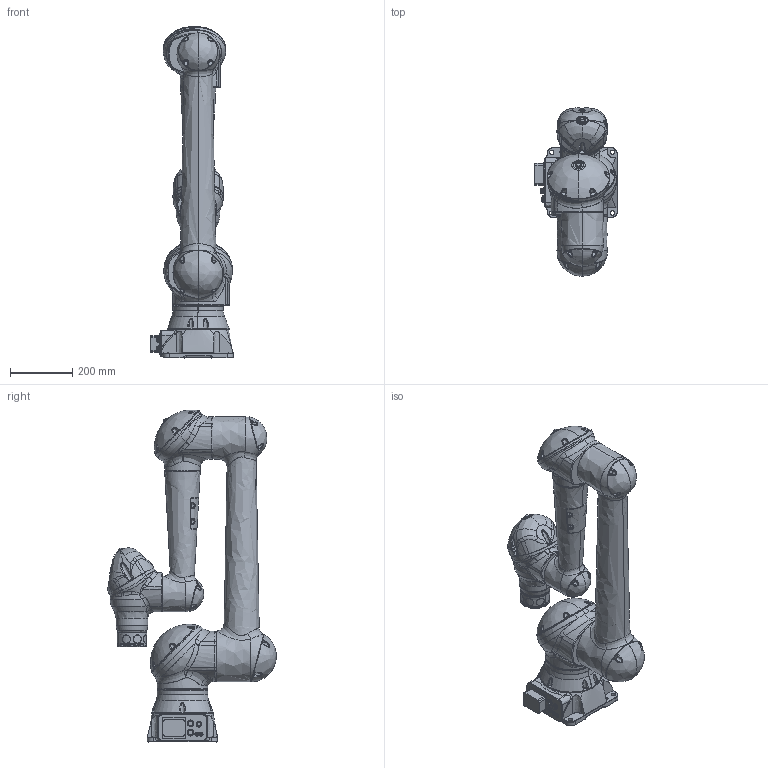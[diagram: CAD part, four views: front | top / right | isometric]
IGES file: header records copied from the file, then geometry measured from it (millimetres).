
Global section: file name: U:\MOTO\HC10DT\HD10DT.igs; native system: NX V12.0; preprocessor: SIEMENS PLM Software NX 12.0; date: 20190516.114852; units: millimetre
Bounding box: 264.65 x 540.56 x 1065.24 mm (x, y, z)
Surface area: 1323264.6 mm2 (no closed solid volume)
Topology: 0 solids, 0 shells, 2057 faces, 14286 edges, 14277 vertices
Faces by surface type: bspline 2057
